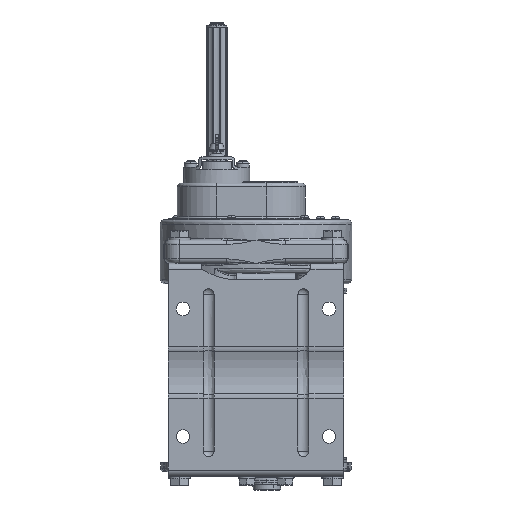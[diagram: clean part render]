
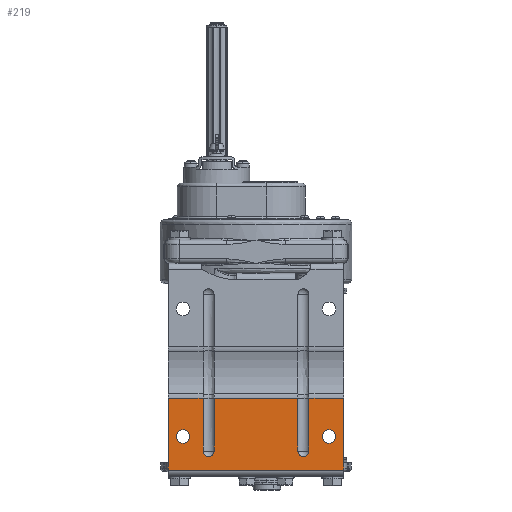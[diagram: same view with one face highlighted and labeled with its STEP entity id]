
A CAD part, front view. The second image highlights one B-rep face of the part: STEP entity #219.
In plain terms, the highlighted planar face has unit normal (0, -1, 0).
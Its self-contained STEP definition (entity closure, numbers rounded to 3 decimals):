
#219=ADVANCED_FACE('',(#3992,#3993,#3994),#3991,.T.);
#3991=PLANE('',#32076);
#3992=FACE_OUTER_BOUND('',#32077,.T.);
#3993=FACE_BOUND('',#32078,.T.);
#3994=FACE_BOUND('',#32079,.T.);
#32073=CARTESIAN_POINT('',(11.,-36.383,-259.95));
#32074=DIRECTION('',(0.,-1.,0.));
#32075=DIRECTION('',(0.,0.,1.));
#32076=AXIS2_PLACEMENT_3D('',#32073,#32074,#32075);
#32077=EDGE_LOOP('',(#54865,#54866,#54867,#54868,#54869,#54870,#54871,#54872,#54873,#54874,#54875,#54876));
#32078=EDGE_LOOP('',(#54877,#54878));
#32079=EDGE_LOOP('',(#54879,#54880));
#54865=ORIENTED_EDGE('',*,*,#69073,.F.);
#54866=ORIENTED_EDGE('',*,*,#69087,.F.);
#54867=ORIENTED_EDGE('',*,*,#69043,.T.);
#54868=ORIENTED_EDGE('',*,*,#69088,.T.);
#54869=ORIENTED_EDGE('',*,*,#69089,.F.);
#54870=ORIENTED_EDGE('',*,*,#69090,.T.);
#54871=ORIENTED_EDGE('',*,*,#69091,.T.);
#54872=ORIENTED_EDGE('',*,*,#69092,.T.);
#54873=ORIENTED_EDGE('',*,*,#69093,.F.);
#54874=ORIENTED_EDGE('',*,*,#69094,.F.);
#54875=ORIENTED_EDGE('',*,*,#69095,.T.);
#54876=ORIENTED_EDGE('',*,*,#69096,.T.);
#54877=ORIENTED_EDGE('',*,*,#69097,.F.);
#54878=ORIENTED_EDGE('',*,*,#69098,.F.);
#54879=ORIENTED_EDGE('',*,*,#69099,.F.);
#54880=ORIENTED_EDGE('',*,*,#69100,.F.);
#69043=EDGE_CURVE('',#78467,#78468,#78469,.T.);
#69073=EDGE_CURVE('',#78671,#78678,#78679,.T.);
#69087=EDGE_CURVE('',#78467,#78671,#78775,.T.);
#69088=EDGE_CURVE('',#78468,#78781,#78782,.T.);
#69089=EDGE_CURVE('',#78788,#78781,#78789,.T.);
#69090=EDGE_CURVE('',#78788,#78795,#78796,.T.);
#69091=EDGE_CURVE('',#78795,#78802,#78803,.T.);
#69092=EDGE_CURVE('',#78802,#78809,#78810,.T.);
#69093=EDGE_CURVE('',#78816,#78809,#78817,.T.);
#69094=EDGE_CURVE('',#78823,#78816,#78824,.T.);
#69095=EDGE_CURVE('',#78823,#78830,#78831,.T.);
#69096=EDGE_CURVE('',#78830,#78678,#78837,.T.);
#69097=EDGE_CURVE('',#78843,#78844,#78845,.T.);
#69098=EDGE_CURVE('',#78844,#78843,#78851,.T.);
#69099=EDGE_CURVE('',#78857,#78858,#78859,.T.);
#69100=EDGE_CURVE('',#78858,#78857,#78865,.T.);
#78467=VERTEX_POINT('',#125186);
#78468=VERTEX_POINT('',#125187);
#78469=LINE('',#125188,#125189);
#78671=VERTEX_POINT('',#125310);
#78678=VERTEX_POINT('',#125315);
#78679=LINE('',#125316,#125317);
#78775=LINE('',#125378,#125379);
#78781=VERTEX_POINT('',#125381);
#78782=LINE('',#125382,#125383);
#78788=VERTEX_POINT('',#125385);
#78789=LINE('',#125386,#125387);
#78795=VERTEX_POINT('',#125389);
#78796=CIRCLE('',#125393,6.);
#78802=VERTEX_POINT('',#125394);
#78803=LINE('',#125395,#125396);
#78809=VERTEX_POINT('',#125398);
#78810=LINE('',#125399,#125400);
#78816=VERTEX_POINT('',#125402);
#78817=LINE('',#125403,#125404);
#78823=VERTEX_POINT('',#125406);
#78824=CIRCLE('',#125410,6.);
#78830=VERTEX_POINT('',#125411);
#78831=LINE('',#125412,#125413);
#78837=LINE('',#125415,#125416);
#78843=VERTEX_POINT('',#125418);
#78844=VERTEX_POINT('',#125419);
#78845=CIRCLE('',#125423,7.5);
#78851=CIRCLE('',#125427,7.5);
#78857=VERTEX_POINT('',#125428);
#78858=VERTEX_POINT('',#125429);
#78859=CIRCLE('',#125433,7.5);
#78865=CIRCLE('',#125437,7.5);
#125186=CARTESIAN_POINT('',(1.,-36.383,-252.1));
#125187=CARTESIAN_POINT('',(1.,-36.383,-173.596));
#125188=CARTESIAN_POINT('',(1.,-36.383,-252.1));
#125189=VECTOR('',#125190,78.504);
#125190=DIRECTION('',(0.,0.,1.));
#125310=CARTESIAN_POINT('',(-191.,-36.383,-252.1));
#125315=CARTESIAN_POINT('',(-191.,-36.383,-173.596));
#125316=CARTESIAN_POINT('',(-191.,-36.383,-252.1));
#125317=VECTOR('',#125318,78.504);
#125318=DIRECTION('',(0.,0.,1.));
#125378=CARTESIAN_POINT('',(1.,-36.383,-252.1));
#125379=VECTOR('',#125380,192.);
#125380=DIRECTION('',(-1.,0.,0.));
#125381=CARTESIAN_POINT('',(-37.,-36.383,-173.596));
#125382=CARTESIAN_POINT('',(1.,-36.383,-173.596));
#125383=VECTOR('',#125384,38.);
#125384=DIRECTION('',(-1.,0.,0.));
#125385=CARTESIAN_POINT('',(-37.,-36.383,-231.302));
#125386=CARTESIAN_POINT('',(-37.,-36.383,-231.302));
#125387=VECTOR('',#125388,57.706);
#125388=DIRECTION('',(0.,0.,1.));
#125389=CARTESIAN_POINT('',(-49.,-36.383,-231.302));
#125390=CARTESIAN_POINT('',(-43.,-36.383,-231.302));
#125391=DIRECTION('',(0.,1.,0.));
#125392=DIRECTION('',(1.,0.,0.));
#125393=AXIS2_PLACEMENT_3D('',#125390,#125391,#125392);
#125394=CARTESIAN_POINT('',(-49.,-36.383,-173.596));
#125395=CARTESIAN_POINT('',(-49.,-36.383,-231.302));
#125396=VECTOR('',#125397,57.706);
#125397=DIRECTION('',(0.,0.,1.));
#125398=CARTESIAN_POINT('',(-141.,-36.383,-173.596));
#125399=CARTESIAN_POINT('',(-49.,-36.383,-173.596));
#125400=VECTOR('',#125401,92.);
#125401=DIRECTION('',(-1.,0.,0.));
#125402=CARTESIAN_POINT('',(-141.,-36.383,-231.302));
#125403=CARTESIAN_POINT('',(-141.,-36.383,-231.302));
#125404=VECTOR('',#125405,57.706);
#125405=DIRECTION('',(0.,0.,1.));
#125406=CARTESIAN_POINT('',(-153.,-36.383,-231.302));
#125407=CARTESIAN_POINT('',(-147.,-36.383,-231.302));
#125408=DIRECTION('',(0.,-1.,0.));
#125409=DIRECTION('',(1.,0.,0.));
#125410=AXIS2_PLACEMENT_3D('',#125407,#125408,#125409);
#125411=CARTESIAN_POINT('',(-153.,-36.383,-173.596));
#125412=CARTESIAN_POINT('',(-153.,-36.383,-231.302));
#125413=VECTOR('',#125414,57.706);
#125414=DIRECTION('',(0.,0.,1.));
#125415=CARTESIAN_POINT('',(-153.,-36.383,-173.596));
#125416=VECTOR('',#125417,38.);
#125417=DIRECTION('',(-1.,0.,0.));
#125418=CARTESIAN_POINT('',(-15.,-36.383,-222.9));
#125419=CARTESIAN_POINT('',(-15.,-36.383,-207.9));
#125420=CARTESIAN_POINT('',(-15.,-36.383,-215.4));
#125421=DIRECTION('',(0.,-1.,0.));
#125422=DIRECTION('',(0.,0.,1.));
#125423=AXIS2_PLACEMENT_3D('',#125420,#125421,#125422);
#125424=CARTESIAN_POINT('',(-15.,-36.383,-215.4));
#125425=DIRECTION('',(0.,-1.,0.));
#125426=DIRECTION('',(0.,0.,1.));
#125427=AXIS2_PLACEMENT_3D('',#125424,#125425,#125426);
#125428=CARTESIAN_POINT('',(-175.,-36.383,-222.9));
#125429=CARTESIAN_POINT('',(-175.,-36.383,-207.9));
#125430=CARTESIAN_POINT('',(-175.,-36.383,-215.4));
#125431=DIRECTION('',(0.,-1.,0.));
#125432=DIRECTION('',(0.,0.,1.));
#125433=AXIS2_PLACEMENT_3D('',#125430,#125431,#125432);
#125434=CARTESIAN_POINT('',(-175.,-36.383,-215.4));
#125435=DIRECTION('',(0.,-1.,0.));
#125436=DIRECTION('',(0.,0.,1.));
#125437=AXIS2_PLACEMENT_3D('',#125434,#125435,#125436);
